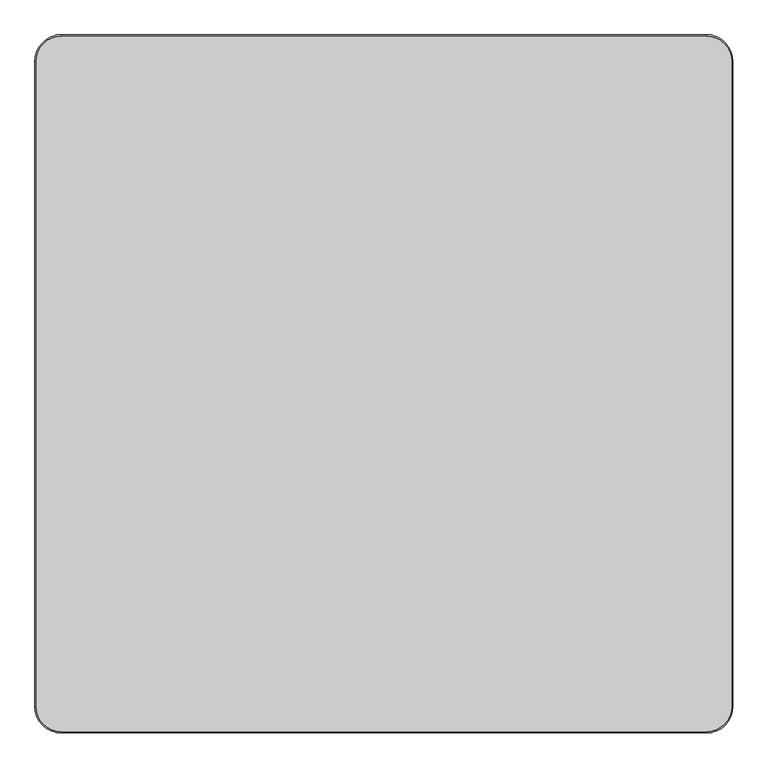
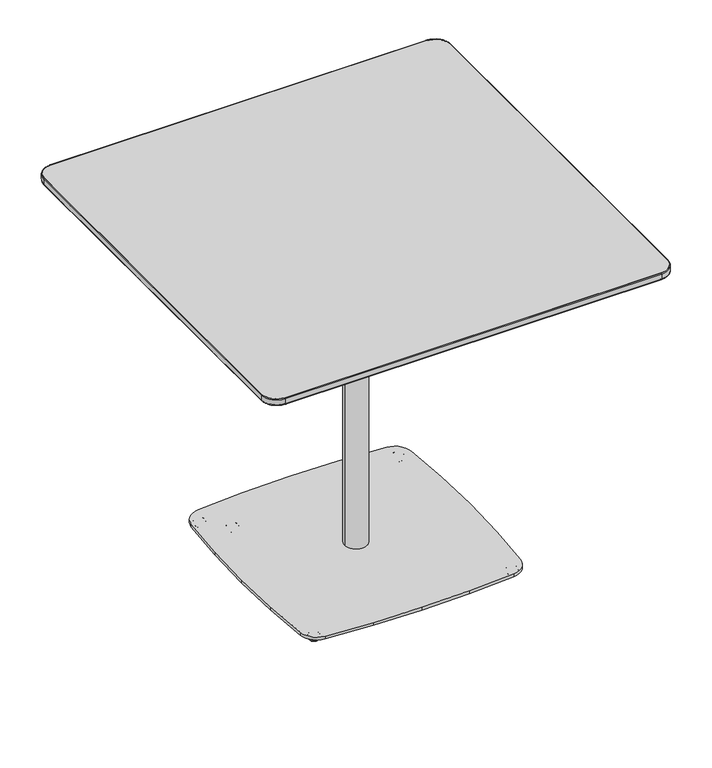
"""IFC4 building model written with IfcOpenShell, lengths in millimetres: furniture geometry, Coalesse_AM_Table_Occasional_Montara650Table_CafeHeight_Square : Counter Height - 42D x 42W."""

from ifc_helpers import new_model, si_unit, point, frame, frame_2d, origin, place, context, project, spatial, polyline, circle_curve, ellipse_curve, trimmed, segment, composite_curve, outline, extrude, source, transform, mapped, element, save
from ifc_brep_helpers import plane_surface, cylinder_surface, revolved_surface, spline_surface, advanced_brep


def furniture_18e4f8cc(model_context):
    return source(origin(), model_context, "Body", "SolidModel", [
        advanced_brep(
        [(252.3158533, 252.1363755, 0.0), (267.0011381, 266.8216603, 0.0), (259.6584957, 259.4790179, 0.0), (251.7693511, 251.5898733, 0.5718943), (267.5476403, 267.3681625, 0.5718943), (249.470252, 249.2907742, 11.2068005), (269.8467394, 269.6672616, 11.2068005), (249.8852728, 249.705795, 11.9999882), (269.4317186, 269.2522408, 11.9999882), (259.6584957, 259.4790179, 11.9999882)],
        [
            (0, 1, circle_curve(frame((259.6584957, 259.4790179, 0.0), z_axis=(0.0, 0.0, -1.0), x_axis=(0.7071067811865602, 0.7071067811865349, 0.0)), 10.3840645)),
            (1, 2),
            (2, 0),
            (1, 0, circle_curve(frame((259.6584957, 259.4790179, 0.0), z_axis=(0.0, 0.0, -1.0), x_axis=(0.7071067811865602, 0.7071067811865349, 0.0)), 10.3840645)),
            (3, 4, circle_curve(frame((259.6584957, 259.4790179, 0.5718943), z_axis=(0.0, 0.0, -1.0), x_axis=(0.7071067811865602, 0.7071067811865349, 0.0)), 11.1569353)),
            (4, 1, circle_curve(frame((267.0011381, 266.8216603, 0.8081846), z_axis=(-0.7071067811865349, 0.7071067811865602, 0.0), x_axis=(0.7071067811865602, 0.7071067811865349, 0.0)), 0.8081846)),
            (0, 3, circle_curve(frame((252.3158533, 252.1363755, 0.8081846), z_axis=(-0.7071067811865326, 0.7071067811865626, 0.0), x_axis=(-0.7071067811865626, -0.7071067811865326, 0.0)), 0.8081846)),
            (4, 3, circle_curve(frame((259.6584957, 259.4790179, 0.5718943), z_axis=(0.0, 0.0, -1.0), x_axis=(0.7071067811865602, 0.7071067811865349, 0.0)), 11.1569353)),
            (5, 6, circle_curve(frame((259.6584957, 259.4790179, 11.2068005), z_axis=(0.0, 0.0, -1.0), x_axis=(0.7071067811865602, 0.7071067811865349, 0.0)), 14.4083524)),
            (6, 4),
            (3, 5),
            (6, 5, circle_curve(frame((259.6584957, 259.4790179, 11.2068005), z_axis=(0.0, 0.0, -1.0), x_axis=(0.7071067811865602, 0.7071067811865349, 0.0)), 14.4083524)),
            (7, 8, circle_curve(frame((259.6584957, 259.4790179, 11.9999882), z_axis=(0.0, 0.0, -1.0), x_axis=(0.7071067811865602, 0.7071067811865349, 0.0)), 13.8214243)),
            (8, 6, circle_curve(frame((269.4317186, 269.2522408, 11.3862424), z_axis=(-0.7071067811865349, 0.7071067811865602, 0.0), x_axis=(0.7071067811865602, 0.7071067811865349, 0.0)), 0.6137458)),
            (5, 7, circle_curve(frame((249.8852728, 249.705795, 11.3862424), z_axis=(-0.7071067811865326, 0.7071067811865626, 0.0), x_axis=(-0.7071067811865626, -0.7071067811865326, 0.0)), 0.6137458)),
            (8, 7, circle_curve(frame((259.6584957, 259.4790179, 11.9999882), z_axis=(0.0, 0.0, -1.0), x_axis=(0.7071067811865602, 0.7071067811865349, 0.0)), 13.8214243)),
            (9, 8),
            (7, 9),
        ],
        [
            plane_surface(frame((259.6584957, 259.4790179, 0.0), z_axis=(0.0, 0.0, -1.0000000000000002), x_axis=(0.7071067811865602, 0.7071067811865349, 0.0))),
            revolved_surface(trimmed(ellipse_curve(frame((267.0011381, 266.8216603, 0.8081846), z_axis=(0.7071067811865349, -0.7071067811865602, 0.0), x_axis=(0.7071067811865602, 0.7071067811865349, 0.0)), 0.8081846, 0.8081846), [point((267.0011381, 266.8216603, 0.0))], [point((267.5476403, 267.3681625, 0.5718943))], True, "CARTESIAN"), (259.6584957, 259.4790179, 12.2086845), (0.0, 0.0, 1.0)),
            revolved_surface(polyline([(267.5476403, 267.3681625, 0.5718943), (269.8467394, 269.6672616, 11.2068005)]), (259.6584957, 259.4790179, 12.2086845), (0.0, 0.0, 1.0)),
            revolved_surface(trimmed(ellipse_curve(frame((269.4317186, 269.2522408, 11.3862424), z_axis=(0.7071067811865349, -0.7071067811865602, 0.0), x_axis=(0.7071067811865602, 0.7071067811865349, 0.0)), 0.6137458, 0.6137458), [point((269.8467394, 269.6672616, 11.2068005))], [point((269.4317186, 269.2522408, 11.9999882))], True, "CARTESIAN"), (259.6584957, 259.4790179, 12.2086845), (0.0, 0.0, 1.0)),
            plane_surface(frame((259.6584957, 259.4790179, 11.9999882), z_axis=(0.0, 0.0, 1.0000000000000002), x_axis=(0.7071067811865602, 0.7071067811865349, 0.0))),
        ],
        [
            (0, [[1, 2, 3]]),
            (0, [[4, -3, -2]]),
            (1, [[5, 6, -1, 7]]),
            (1, [[8, -7, -4, -6]]),
            (2, [[9, 10, -5, 11]]),
            (2, [[12, -11, -8, -10]]),
            (3, [[13, 14, -9, 15]]),
            (3, [[16, -15, -12, -14]]),
            (4, [[17, -13, 18]]),
            (4, [[-18, -16, -17]]),
        ],
    ),
        advanced_brep(
        [(259.8015382, -259.9111532, 0.0), (267.1441807, -267.2537956, 0.0), (252.4588958, -252.5685107, 0.0), (267.6906828, -267.8002977, 0.5718943), (251.9123937, -252.0220086, 0.5718943), (269.9897819, -270.0993968, 11.2068005), (249.6132946, -249.7229095, 11.2068005), (269.5747611, -269.684376, 11.9999882), (250.0283154, -250.1379303, 11.9999882), (259.8015382, -259.9111532, 11.9999882)],
        [
            (0, 1),
            (1, 2, circle_curve(frame((259.8015382, -259.9111532, 0.0), z_axis=(0.0, 0.0, -1.0), x_axis=(0.7071067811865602, -0.7071067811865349, 0.0)), 10.3840645)),
            (2, 0),
            (2, 1, circle_curve(frame((259.8015382, -259.9111532, 0.0), z_axis=(0.0, 0.0, -1.0), x_axis=(0.7071067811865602, -0.7071067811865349, 0.0)), 10.3840645)),
            (1, 3, circle_curve(frame((267.1441807, -267.2537956, 0.8081846), z_axis=(-0.7071067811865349, -0.7071067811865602, 0.0), x_axis=(0.7071067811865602, -0.7071067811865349, 0.0)), 0.8081846)),
            (3, 4, circle_curve(frame((259.8015382, -259.9111532, 0.5718943), z_axis=(0.0, 0.0, -1.0), x_axis=(0.7071067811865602, -0.7071067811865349, 0.0)), 11.1569353)),
            (4, 2, circle_curve(frame((252.4588958, -252.5685107, 0.8081846), z_axis=(-0.7071067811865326, -0.7071067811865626, 0.0), x_axis=(-0.7071067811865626, 0.7071067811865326, 0.0)), 0.8081846)),
            (4, 3, circle_curve(frame((259.8015382, -259.9111532, 0.5718943), z_axis=(0.0, 0.0, -1.0), x_axis=(0.7071067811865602, -0.7071067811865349, 0.0)), 11.1569353)),
            (3, 5),
            (5, 6, circle_curve(frame((259.8015382, -259.9111532, 11.2068005), z_axis=(0.0, 0.0, -1.0), x_axis=(0.7071067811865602, -0.7071067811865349, 0.0)), 14.4083524)),
            (6, 4),
            (6, 5, circle_curve(frame((259.8015382, -259.9111532, 11.2068005), z_axis=(0.0, 0.0, -1.0), x_axis=(0.7071067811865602, -0.7071067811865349, 0.0)), 14.4083524)),
            (5, 7, circle_curve(frame((269.5747611, -269.684376, 11.3862424), z_axis=(-0.7071067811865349, -0.7071067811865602, 0.0), x_axis=(0.7071067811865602, -0.7071067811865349, 0.0)), 0.6137458)),
            (7, 8, circle_curve(frame((259.8015382, -259.9111532, 11.9999882), z_axis=(0.0, 0.0, -1.0), x_axis=(0.7071067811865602, -0.7071067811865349, 0.0)), 13.8214243)),
            (8, 6, circle_curve(frame((250.0283154, -250.1379303, 11.3862424), z_axis=(-0.7071067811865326, -0.7071067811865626, 0.0), x_axis=(-0.7071067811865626, 0.7071067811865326, 0.0)), 0.6137458)),
            (8, 7, circle_curve(frame((259.8015382, -259.9111532, 11.9999882), z_axis=(0.0, 0.0, -1.0), x_axis=(0.7071067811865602, -0.7071067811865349, 0.0)), 13.8214243)),
            (7, 9),
            (9, 8),
        ],
        [
            plane_surface(frame((259.8015382, -259.9111532, 0.0), z_axis=(0.0, 0.0, -1.0000000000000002), x_axis=(0.7071067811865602, -0.7071067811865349, 0.0))),
            revolved_surface(trimmed(ellipse_curve(frame((267.1441807, -267.2537956, 0.8081846), z_axis=(0.7071067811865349, 0.7071067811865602, 0.0), x_axis=(0.7071067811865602, -0.7071067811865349, 0.0)), 0.8081846, 0.8081846), [point((267.6906828, -267.8002977, 0.5718943))], [point((267.1441807, -267.2537956, 0.0))], True, "CARTESIAN"), (259.8015382, -259.9111532, 12.2086845), (0.0, 0.0, -1.0)),
            revolved_surface(polyline([(269.9897819, -270.0993968, 11.2068005), (267.6906828, -267.8002977, 0.5718943)]), (259.8015382, -259.9111532, 12.2086845), (0.0, 0.0, -1.0)),
            revolved_surface(trimmed(ellipse_curve(frame((269.5747611, -269.684376, 11.3862424), z_axis=(0.7071067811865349, 0.7071067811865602, 0.0), x_axis=(0.7071067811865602, -0.7071067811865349, 0.0)), 0.6137458, 0.6137458), [point((269.5747611, -269.684376, 11.9999882))], [point((269.9897819, -270.0993968, 11.2068005))], True, "CARTESIAN"), (259.8015382, -259.9111532, 12.2086845), (0.0, 0.0, -1.0)),
            plane_surface(frame((259.8015382, -259.9111532, 11.9999882), z_axis=(0.0, 0.0, 1.0000000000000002), x_axis=(0.7071067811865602, -0.7071067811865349, 0.0))),
        ],
        [
            (0, [[1, 2, 3]]),
            (0, [[-3, 4, -1]]),
            (1, [[-2, 5, 6, 7]]),
            (1, [[-4, -7, 8, -5]]),
            (2, [[-6, 9, 10, 11]]),
            (2, [[-8, -11, 12, -9]]),
            (3, [[-10, 13, 14, 15]]),
            (3, [[-12, -15, 16, -13]]),
            (4, [[-14, 17, 18]]),
            (4, [[-16, -18, -17]]),
        ],
    ),
        extrude(outline(composite_curve([segment(trimmed(circle_curve(frame_2d((-243.9942116, 243.996709)), 44.45), [point((-288.3392595, 247.0494508))], [point((-247.0469534, 288.3417568))], False, "CARTESIAN"), True, "CONTINUOUS"), segment(polyline([(-247.0469534, 288.3417568), (-126.1187996, 296.6665291), (-0.0009163, 300.0012093), (126.116967, 296.6665291), (247.0474572, 288.341596)]), True, "CONTINUOUS"), segment(trimmed(circle_curve(frame_2d((243.9947155, 243.9965482)), 44.45), [point((247.0474572, 288.341596))], [point((288.3397633, 247.0492899))], False, "CARTESIAN"), True, "CONTINUOUS"), segment(polyline([(288.3397633, 247.0492899), (296.6646964, 126.1187996), (299.9993766, 0.0009163), (296.6646964, -126.116967), (288.3399178, -247.0452123)]), True, "CONTINUOUS"), segment(trimmed(circle_curve(frame_2d((243.99487, -243.9924705)), 44.45), [point((288.3399178, -247.0452123))], [point((247.0484272, -288.3374622))], False, "CARTESIAN"), True, "CONTINUOUS"), segment(polyline([(247.0484272, -288.3374622), (126.116967, -296.6646964), (-0.0009163, -299.9993766), (-126.1187996, -296.6646964), (-247.0479234, -288.3376231)]), True, "CONTINUOUS"), segment(trimmed(circle_curve(frame_2d((-243.9943662, -243.9926314)), 44.45), [point((-247.0479234, -288.3376231))], [point((-288.339414, -247.0453732))], False, "CARTESIAN"), True, "CONTINUOUS"), segment(polyline([(-288.339414, -247.0453732), (-296.6642037, -126.116967), (-299.9988839, 0.0009163), (-296.6642037, 126.1187996), (-288.3392595, 247.0494508)]), True, "CONTINUOUS")], self_intersect=False)), frame((0.0, 0.0, 11.9999882), z_axis=(0.0, 0.0, 1.0), x_axis=(1.0, 0.0, 0.0)), (0.0, 0.0, 1.0), 8.0000083),
        advanced_brep(
        [(-259.8122576, 259.6204684, 0.0), (-267.1549, 266.9631108, 0.0), (-252.4696151, 252.277826, 0.0), (-267.7014021, 267.509613, 0.5718943), (-251.923113, 251.7313238, 0.5718943), (-270.0005012, 269.8087121, 11.2068005), (-249.6240139, 249.4322247, 11.2068005), (-269.5854804, 269.3936913, 11.9999882), (-250.0390347, 249.8472455, 11.9999882), (-259.8122576, 259.6204684, 11.9999882)],
        [
            (0, 1),
            (1, 2, circle_curve(frame((-259.8122576, 259.6204684, 0.0), z_axis=(0.0, 0.0, -1.0), x_axis=(-0.7071067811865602, 0.7071067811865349, 0.0)), 10.3840645)),
            (2, 0),
            (2, 1, circle_curve(frame((-259.8122576, 259.6204684, 0.0), z_axis=(0.0, 0.0, -1.0), x_axis=(-0.7071067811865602, 0.7071067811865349, 0.0)), 10.3840645)),
            (1, 3, circle_curve(frame((-267.1549, 266.9631108, 0.8081846), z_axis=(0.7071067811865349, 0.7071067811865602, 0.0), x_axis=(-0.7071067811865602, 0.7071067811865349, 0.0)), 0.8081846)),
            (3, 4, circle_curve(frame((-259.8122576, 259.6204684, 0.5718943), z_axis=(0.0, 0.0, -1.0), x_axis=(-0.7071067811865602, 0.7071067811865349, 0.0)), 11.1569353)),
            (4, 2, circle_curve(frame((-252.4696151, 252.277826, 0.8081846), z_axis=(0.7071067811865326, 0.7071067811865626, 0.0), x_axis=(0.7071067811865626, -0.7071067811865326, 0.0)), 0.8081846)),
            (4, 3, circle_curve(frame((-259.8122576, 259.6204684, 0.5718943), z_axis=(0.0, 0.0, -1.0), x_axis=(-0.7071067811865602, 0.7071067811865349, 0.0)), 11.1569353)),
            (3, 5),
            (5, 6, circle_curve(frame((-259.8122576, 259.6204684, 11.2068005), z_axis=(0.0, 0.0, -1.0), x_axis=(-0.7071067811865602, 0.7071067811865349, 0.0)), 14.4083524)),
            (6, 4),
            (6, 5, circle_curve(frame((-259.8122576, 259.6204684, 11.2068005), z_axis=(0.0, 0.0, -1.0), x_axis=(-0.7071067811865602, 0.7071067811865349, 0.0)), 14.4083524)),
            (5, 7, circle_curve(frame((-269.5854804, 269.3936913, 11.3862424), z_axis=(0.7071067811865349, 0.7071067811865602, 0.0), x_axis=(-0.7071067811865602, 0.7071067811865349, 0.0)), 0.6137458)),
            (7, 8, circle_curve(frame((-259.8122576, 259.6204684, 11.9999882), z_axis=(0.0, 0.0, -1.0), x_axis=(-0.7071067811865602, 0.7071067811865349, 0.0)), 13.8214243)),
            (8, 6, circle_curve(frame((-250.0390347, 249.8472455, 11.3862424), z_axis=(0.7071067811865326, 0.7071067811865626, 0.0), x_axis=(0.7071067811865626, -0.7071067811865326, 0.0)), 0.6137458)),
            (8, 7, circle_curve(frame((-259.8122576, 259.6204684, 11.9999882), z_axis=(0.0, 0.0, -1.0), x_axis=(-0.7071067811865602, 0.7071067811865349, 0.0)), 13.8214243)),
            (7, 9),
            (9, 8),
        ],
        [
            plane_surface(frame((-259.8122576, 259.6204684, 0.0), z_axis=(0.0, 0.0, -1.0000000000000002), x_axis=(-0.7071067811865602, 0.7071067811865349, 0.0))),
            revolved_surface(trimmed(ellipse_curve(frame((-267.1549, 266.9631108, 0.8081846), z_axis=(-0.7071067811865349, -0.7071067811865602, 0.0), x_axis=(-0.7071067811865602, 0.7071067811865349, 0.0)), 0.8081846, 0.8081846), [point((-267.7014021, 267.509613, 0.5718943))], [point((-267.1549, 266.9631108, 0.0))], True, "CARTESIAN"), (-259.8122576, 259.6204684, 12.2086845), (0.0, 0.0, -1.0)),
            revolved_surface(polyline([(-270.0005012, 269.8087121, 11.2068005), (-267.7014021, 267.509613, 0.5718943)]), (-259.8122576, 259.6204684, 12.2086845), (0.0, 0.0, -1.0)),
            revolved_surface(trimmed(ellipse_curve(frame((-269.5854804, 269.3936913, 11.3862424), z_axis=(-0.7071067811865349, -0.7071067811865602, 0.0), x_axis=(-0.7071067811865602, 0.7071067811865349, 0.0)), 0.6137458, 0.6137458), [point((-269.5854804, 269.3936913, 11.9999882))], [point((-270.0005012, 269.8087121, 11.2068005))], True, "CARTESIAN"), (-259.8122576, 259.6204684, 12.2086845), (0.0, 0.0, -1.0)),
            plane_surface(frame((-259.8122576, 259.6204684, 11.9999882), z_axis=(0.0, 0.0, 1.0000000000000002), x_axis=(-0.7071067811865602, 0.7071067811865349, 0.0))),
        ],
        [
            (0, [[1, 2, 3]]),
            (0, [[-3, 4, -1]]),
            (1, [[-2, 5, 6, 7]]),
            (1, [[-4, -7, 8, -5]]),
            (2, [[-6, 9, 10, 11]]),
            (2, [[-8, -11, 12, -9]]),
            (3, [[-10, 13, 14, 15]]),
            (3, [[-12, -15, 16, -13]]),
            (4, [[-14, 17, 18]]),
            (4, [[-16, -18, -17]]),
        ],
    ),
        advanced_brep(
        [(-252.8175248, -252.4969322, 0.0), (-267.5028096, -267.182217, 0.0), (-260.1601672, -259.8395746, 0.0), (-252.2710226, -251.95043, 0.5718943), (-268.0493118, -267.7287192, 0.5718943), (-249.9719235, -249.6513309, 11.2068005), (-270.3484109, -270.0278183, 11.2068005), (-250.3869443, -250.0663517, 11.9999882), (-269.9333901, -269.6127975, 11.9999882), (-260.1601672, -259.8395746, 11.9999882)],
        [
            (0, 1, circle_curve(frame((-260.1601672, -259.8395746, 0.0), z_axis=(0.0, 0.0, -1.0), x_axis=(-0.7071067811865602, -0.7071067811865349, 0.0)), 10.3840645)),
            (1, 2),
            (2, 0),
            (1, 0, circle_curve(frame((-260.1601672, -259.8395746, 0.0), z_axis=(0.0, 0.0, -1.0), x_axis=(-0.7071067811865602, -0.7071067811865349, 0.0)), 10.3840645)),
            (3, 4, circle_curve(frame((-260.1601672, -259.8395746, 0.5718943), z_axis=(0.0, 0.0, -1.0), x_axis=(-0.7071067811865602, -0.7071067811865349, 0.0)), 11.1569353)),
            (4, 1, circle_curve(frame((-267.5028096, -267.182217, 0.8081846), z_axis=(0.7071067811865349, -0.7071067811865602, 0.0), x_axis=(-0.7071067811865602, -0.7071067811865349, 0.0)), 0.8081846)),
            (0, 3, circle_curve(frame((-252.8175248, -252.4969322, 0.8081846), z_axis=(0.7071067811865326, -0.7071067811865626, 0.0), x_axis=(0.7071067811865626, 0.7071067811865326, 0.0)), 0.8081846)),
            (4, 3, circle_curve(frame((-260.1601672, -259.8395746, 0.5718943), z_axis=(0.0, 0.0, -1.0), x_axis=(-0.7071067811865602, -0.7071067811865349, 0.0)), 11.1569353)),
            (5, 6, circle_curve(frame((-260.1601672, -259.8395746, 11.2068005), z_axis=(0.0, 0.0, -1.0), x_axis=(-0.7071067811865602, -0.7071067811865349, 0.0)), 14.4083524)),
            (6, 4),
            (3, 5),
            (6, 5, circle_curve(frame((-260.1601672, -259.8395746, 11.2068005), z_axis=(0.0, 0.0, -1.0), x_axis=(-0.7071067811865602, -0.7071067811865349, 0.0)), 14.4083524)),
            (7, 8, circle_curve(frame((-260.1601672, -259.8395746, 11.9999882), z_axis=(0.0, 0.0, -1.0), x_axis=(-0.7071067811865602, -0.7071067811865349, 0.0)), 13.8214243)),
            (8, 6, circle_curve(frame((-269.9333901, -269.6127975, 11.3862424), z_axis=(0.7071067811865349, -0.7071067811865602, 0.0), x_axis=(-0.7071067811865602, -0.7071067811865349, 0.0)), 0.6137458)),
            (5, 7, circle_curve(frame((-250.3869443, -250.0663517, 11.3862424), z_axis=(0.7071067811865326, -0.7071067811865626, 0.0), x_axis=(0.7071067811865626, 0.7071067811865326, 0.0)), 0.6137458)),
            (8, 7, circle_curve(frame((-260.1601672, -259.8395746, 11.9999882), z_axis=(0.0, 0.0, -1.0), x_axis=(-0.7071067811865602, -0.7071067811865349, 0.0)), 13.8214243)),
            (9, 8),
            (7, 9),
        ],
        [
            plane_surface(frame((-260.1601672, -259.8395746, 0.0), z_axis=(0.0, 0.0, -1.0000000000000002), x_axis=(-0.7071067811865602, -0.7071067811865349, 0.0))),
            revolved_surface(trimmed(ellipse_curve(frame((-267.5028096, -267.182217, 0.8081846), z_axis=(-0.7071067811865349, 0.7071067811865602, 0.0), x_axis=(-0.7071067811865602, -0.7071067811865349, 0.0)), 0.8081846, 0.8081846), [point((-267.5028096, -267.182217, 0.0))], [point((-268.0493118, -267.7287192, 0.5718943))], True, "CARTESIAN"), (-260.1601672, -259.8395746, 12.2086845), (0.0, 0.0, 1.0)),
            revolved_surface(polyline([(-268.0493118, -267.7287192, 0.5718943), (-270.3484109, -270.0278183, 11.2068005)]), (-260.1601672, -259.8395746, 12.2086845), (0.0, 0.0, 1.0)),
            revolved_surface(trimmed(ellipse_curve(frame((-269.9333901, -269.6127975, 11.3862424), z_axis=(-0.7071067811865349, 0.7071067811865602, 0.0), x_axis=(-0.7071067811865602, -0.7071067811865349, 0.0)), 0.6137458, 0.6137458), [point((-270.3484109, -270.0278183, 11.2068005))], [point((-269.9333901, -269.6127975, 11.9999882))], True, "CARTESIAN"), (-260.1601672, -259.8395746, 12.2086845), (0.0, 0.0, 1.0)),
            plane_surface(frame((-260.1601672, -259.8395746, 11.9999882), z_axis=(0.0, 0.0, 1.0000000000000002), x_axis=(-0.7071067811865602, -0.7071067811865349, 0.0))),
        ],
        [
            (0, [[1, 2, 3]]),
            (0, [[4, -3, -2]]),
            (1, [[5, 6, -1, 7]]),
            (1, [[8, -7, -4, -6]]),
            (2, [[9, 10, -5, 11]]),
            (2, [[12, -11, -8, -10]]),
            (3, [[13, 14, -9, 15]]),
            (3, [[16, -15, -12, -14]]),
            (4, [[17, -13, 18]]),
            (4, [[-18, -16, -17]]),
        ],
    ),
        advanced_brep(
        [(-204.8873489, 205.5044028, 0.0), (-212.2299913, 212.8470453, 0.0), (-197.5447065, 198.1617604, 0.0), (-212.7764935, 213.3935474, 0.5718943), (-196.9982043, 197.6152583, 0.5718943), (-215.0755926, 215.6926465, 11.2068005), (-194.6991052, 195.3161592, 11.2068005), (-214.6605718, 215.2776257, 11.9999882), (-195.114126, 195.73118, 11.9999882), (-204.8873489, 205.5044028, 11.9999882)],
        [
            (0, 1),
            (1, 2, circle_curve(frame((-204.8873489, 205.5044028, 0.0), z_axis=(0.0, 0.0, -1.0), x_axis=(-0.7071067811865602, 0.7071067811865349, 0.0)), 10.3840645)),
            (2, 0),
            (2, 1, circle_curve(frame((-204.8873489, 205.5044028, 0.0), z_axis=(0.0, 0.0, -1.0), x_axis=(-0.7071067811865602, 0.7071067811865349, 0.0)), 10.3840645)),
            (1, 3, circle_curve(frame((-212.2299913, 212.8470453, 0.8081846), z_axis=(0.7071067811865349, 0.7071067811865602, 0.0), x_axis=(-0.7071067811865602, 0.7071067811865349, 0.0)), 0.8081846)),
            (3, 4, circle_curve(frame((-204.8873489, 205.5044028, 0.5718943), z_axis=(0.0, 0.0, -1.0), x_axis=(-0.7071067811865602, 0.7071067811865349, 0.0)), 11.1569353)),
            (4, 2, circle_curve(frame((-197.5447065, 198.1617604, 0.8081846), z_axis=(0.7071067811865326, 0.7071067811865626, 0.0), x_axis=(0.7071067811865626, -0.7071067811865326, 0.0)), 0.8081846)),
            (4, 3, circle_curve(frame((-204.8873489, 205.5044028, 0.5718943), z_axis=(0.0, 0.0, -1.0), x_axis=(-0.7071067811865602, 0.7071067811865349, 0.0)), 11.1569353)),
            (3, 5),
            (5, 6, circle_curve(frame((-204.8873489, 205.5044028, 11.2068005), z_axis=(0.0, 0.0, -1.0), x_axis=(-0.7071067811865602, 0.7071067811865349, 0.0)), 14.4083524)),
            (6, 4),
            (6, 5, circle_curve(frame((-204.8873489, 205.5044028, 11.2068005), z_axis=(0.0, 0.0, -1.0), x_axis=(-0.7071067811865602, 0.7071067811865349, 0.0)), 14.4083524)),
            (5, 7, circle_curve(frame((-214.6605718, 215.2776257, 11.3862424), z_axis=(0.7071067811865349, 0.7071067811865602, 0.0), x_axis=(-0.7071067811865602, 0.7071067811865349, 0.0)), 0.6137458)),
            (7, 8, circle_curve(frame((-204.8873489, 205.5044028, 11.9999882), z_axis=(0.0, 0.0, -1.0), x_axis=(-0.7071067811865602, 0.7071067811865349, 0.0)), 13.8214243)),
            (8, 6, circle_curve(frame((-195.114126, 195.73118, 11.3862424), z_axis=(0.7071067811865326, 0.7071067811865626, 0.0), x_axis=(0.7071067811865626, -0.7071067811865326, 0.0)), 0.6137458)),
            (8, 7, circle_curve(frame((-204.8873489, 205.5044028, 11.9999882), z_axis=(0.0, 0.0, -1.0), x_axis=(-0.7071067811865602, 0.7071067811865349, 0.0)), 13.8214243)),
            (7, 9),
            (9, 8),
        ],
        [
            plane_surface(frame((-204.8873489, 205.5044028, 0.0), z_axis=(0.0, 0.0, -1.0000000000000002), x_axis=(-0.7071067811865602, 0.7071067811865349, 0.0))),
            revolved_surface(trimmed(ellipse_curve(frame((-212.2299913, 212.8470453, 0.8081846), z_axis=(-0.7071067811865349, -0.7071067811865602, 0.0), x_axis=(-0.7071067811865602, 0.7071067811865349, 0.0)), 0.8081846, 0.8081846), [point((-212.7764935, 213.3935474, 0.5718943))], [point((-212.2299913, 212.8470453, 0.0))], True, "CARTESIAN"), (-204.8873489, 205.5044028, 12.2086845), (0.0, 0.0, -1.0)),
            revolved_surface(polyline([(-215.0755926, 215.6926465, 11.2068005), (-212.7764935, 213.3935474, 0.5718943)]), (-204.8873489, 205.5044028, 12.2086845), (0.0, 0.0, -1.0)),
            revolved_surface(trimmed(ellipse_curve(frame((-214.6605718, 215.2776257, 11.3862424), z_axis=(-0.7071067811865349, -0.7071067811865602, 0.0), x_axis=(-0.7071067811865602, 0.7071067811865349, 0.0)), 0.6137458, 0.6137458), [point((-214.6605718, 215.2776257, 11.9999882))], [point((-215.0755926, 215.6926465, 11.2068005))], True, "CARTESIAN"), (-204.8873489, 205.5044028, 12.2086845), (0.0, 0.0, -1.0)),
            plane_surface(frame((-204.8873489, 205.5044028, 11.9999882), z_axis=(0.0, 0.0, 1.0000000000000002), x_axis=(-0.7071067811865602, 0.7071067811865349, 0.0))),
        ],
        [
            (0, [[1, 2, 3]]),
            (0, [[-3, 4, -1]]),
            (1, [[-2, 5, 6, 7]]),
            (1, [[-4, -7, 8, -5]]),
            (2, [[-6, 9, 10, 11]]),
            (2, [[-8, -11, 12, -9]]),
            (3, [[-10, 13, 14, 15]]),
            (3, [[-12, -15, 16, -13]]),
            (4, [[-14, 17, 18]]),
            (4, [[-16, -18, -17]]),
        ],
    ),
        advanced_brep(
        [(468.4626362, 468.4635082, 884.430027), (468.4626362, -468.4635082, 884.430027), (-468.4626362, -468.4635082, 884.430027), (-468.4626362, 468.4635082, 884.430027), (493.188625, 531.368, 896.695891), (-493.188625, 531.368, 896.695891), (-531.288625, 493.268, 896.695891), (-531.288625, -493.268, 896.695891), (-493.188625, -531.368, 896.695891), (493.188625, -531.368, 896.695891), (531.288625, -493.268, 896.695891), (531.288625, 493.268, 896.695891)],
        [
            (0, 1),
            (1, 2),
            (2, 3),
            (3, 0),
            (4, 5),
            (5, 6, circle_curve(frame((-493.188625, 493.268, 896.695891), z_axis=(0.0, 0.0, 1.0), x_axis=(1.0, 0.0, 0.0)), 38.1)),
            (6, 7),
            (7, 8, circle_curve(frame((-493.188625, -493.268, 896.695891), z_axis=(0.0, 0.0, 1.0), x_axis=(1.0, 0.0, 0.0)), 38.1)),
            (8, 9),
            (9, 10, circle_curve(frame((493.188625, -493.268, 896.695891), z_axis=(0.0, 0.0, 1.0), x_axis=(1.0, 0.0, 0.0)), 38.1)),
            (10, 11),
            (11, 4, circle_curve(frame((493.188625, 493.268, 896.695891), z_axis=(0.0, 0.0, 1.0), x_axis=(1.0, 0.0, 0.0)), 38.1)),
            (11, 0),
            (0, 4),
            (10, 1),
            (9, 1),
            (8, 2),
            (7, 2),
            (6, 3),
            (5, 3),
        ],
        [
            plane_surface(frame((0.0, 0.0, 884.430027), z_axis=(0.0, 0.0, -1.0), x_axis=(-1.0, 0.0, 0.0))),
            plane_surface(frame((0.0, 0.0, 896.695891), z_axis=(0.0, 0.0, 1.0), x_axis=(-1.0, 0.0, 0.0))),
            spline_surface(2, 1, [[(493.188625, 531.368, 896.695891), (468.4626362, 468.4635082, 884.430027)], [(531.2886250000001, 531.3680000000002, 896.695891), (468.4626362, 468.4635082, 884.430027)], [(531.288625, 493.268, 896.695891), (468.4626362, 468.4635082, 884.430027)]], [3, 3], [2, 2], [0.0, 1.0], [0.0, 1.0], weights=[[1.0, 1.0], [0.707106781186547, 0.707106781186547], [1.0, 1.0]]),
            plane_surface(frame((531.288625, 0.0, 896.695891), z_axis=(0.1916177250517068, 0.0, -0.9814696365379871), x_axis=(0.0, -1.0, 0.0))),
            spline_surface(2, 1, [[(531.288625, -493.268, 896.695891), (468.4626362, -468.4635082, 884.430027)], [(531.2886249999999, -531.3679999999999, 896.695891), (468.4626362, -468.4635082, 884.430027)], [(493.188625, -531.368, 896.695891), (468.4626362, -468.4635082, 884.430027)]], [3, 3], [2, 2], [0.0, 1.0], [0.0, 1.0], weights=[[1.0, 1.0], [0.7071067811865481, 0.7071067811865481], [1.0, 1.0]]),
            plane_surface(frame((0.0, -531.368, 896.695891), z_axis=(0.0, -0.19138735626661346, -0.9815145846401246), x_axis=(-1.0, 0.0, 0.0))),
            spline_surface(2, 1, [[(-493.188625, -531.368, 896.695891), (-468.4626362, -468.4635082, 884.430027)], [(-531.2886250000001, -531.3680000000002, 896.695891), (-468.4626362, -468.4635082, 884.430027)], [(-531.288625, -493.268, 896.695891), (-468.4626362, -468.4635082, 884.430027)]], [3, 3], [2, 2], [0.0, 1.0], [0.0, 1.0], weights=[[1.0, 1.0], [0.707106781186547, 0.707106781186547], [1.0, 1.0]]),
            plane_surface(frame((-531.288625, 0.0, 896.695891), z_axis=(-0.19161772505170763, 0.0, -0.981469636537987), x_axis=(0.0, 1.0, 0.0))),
            spline_surface(2, 1, [[(-531.288625, 493.268, 896.695891), (-468.4626362, 468.4635082, 884.430027)], [(-531.2886249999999, 531.3679999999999, 896.695891), (-468.4626362, 468.4635082, 884.430027)], [(-493.188625, 531.368, 896.695891), (-468.4626362, 468.4635082, 884.430027)]], [3, 3], [2, 2], [0.0, 1.0], [0.0, 1.0], weights=[[1.0, 1.0], [0.7071067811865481, 0.7071067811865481], [1.0, 1.0]]),
            plane_surface(frame((0.0, 531.368, 896.695891), z_axis=(0.0, 0.19138735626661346, -0.9815145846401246), x_axis=(1.0, 0.0, 0.0))),
        ],
        [
            (0, [[1, 2, 3, 4]]),
            (1, [[5, 6, 7, 8, 9, 10, 11, 12]]),
            (2, [[-12, 13, 14]]),
            (3, [[-11, 15, -1, -13]]),
            (4, [[-10, 16, -15]]),
            (5, [[-9, 17, -2, -16]]),
            (6, [[-8, 18, -17]]),
            (7, [[-7, 19, -3, -18]]),
            (8, [[-6, 20, -19]]),
            (9, [[-5, -14, -4, -20]]),
        ],
    ),
        extrude(outline(composite_curve([segment(trimmed(circle_curve(frame_2d((493.188625, 493.268)), 38.1), [point((493.188625, 531.368))], [point((531.288625, 493.268))], False, "CARTESIAN"), True, "CONTINUOUS"), segment(polyline([(531.288625, 493.268), (531.288625, -493.268)]), True, "CONTINUOUS"), segment(trimmed(circle_curve(frame_2d((493.188625, -493.268)), 38.1), [point((531.288625, -493.268))], [point((493.188625, -531.368))], False, "CARTESIAN"), True, "CONTINUOUS"), segment(polyline([(493.188625, -531.368), (-493.188625, -531.368)]), True, "CONTINUOUS"), segment(trimmed(circle_curve(frame_2d((-493.188625, -493.268)), 38.1), [point((-493.188625, -531.368))], [point((-531.288625, -493.268))], False, "CARTESIAN"), True, "CONTINUOUS"), segment(polyline([(-531.288625, -493.268), (-531.288625, 493.268)]), True, "CONTINUOUS"), segment(trimmed(circle_curve(frame_2d((-493.188625, 493.268)), 38.1), [point((-531.288625, 493.268))], [point((-493.188625, 531.368))], False, "CARTESIAN"), True, "CONTINUOUS"), segment(polyline([(-493.188625, 531.368), (493.188625, 531.368)]), True, "CONTINUOUS")], self_intersect=False)), frame((0.0, 0.0, 896.695891), z_axis=(0.0, 0.0, 1.0), x_axis=(1.0, 0.0, 0.0)), (0.0, 0.0, 1.0), 17.704109),
        advanced_brep(
        [(-533.3644915, 493.268, 898.6278467), (-493.188625, 533.4438665, 898.6278467), (-493.188625, 531.368, 896.695891), (-531.288625, 493.268, 896.695891), (-533.3644915, 493.268, 912.3999283), (-493.188625, 533.4438665, 912.3999283), (-531.288625, 493.268, 914.4), (-493.188625, 531.368, 914.4), (-531.288625, -493.268, 896.695891), (-533.3644915, -493.268, 898.6278467), (-533.3644915, -493.268, 912.3999283), (-531.288625, -493.268, 914.4), (-493.188625, -533.4438665, 898.6278467), (-493.188625, -531.368, 896.695891), (-493.188625, -533.4438665, 912.3999283), (-493.188625, -531.368, 914.4), (493.188625, -531.368, 896.695891), (493.188625, -533.4438665, 898.6278467), (493.188625, -533.4438665, 912.3999283), (493.188625, -531.368, 914.4), (533.3644915, -493.268, 898.6278467), (531.288625, -493.268, 896.695891), (533.3644915, -493.268, 912.3999283), (531.288625, -493.268, 914.4), (531.288625, 493.268, 896.695891), (533.3644915, 493.268, 898.6278467), (533.3644915, 493.268, 912.3999283), (531.288625, 493.268, 914.4), (493.188625, 533.4438665, 898.6278467), (493.188625, 531.368, 896.695891), (493.188625, 533.4438665, 912.3999283), (493.188625, 531.368, 914.4)],
        [
            (0, 1, circle_curve(frame((-493.188625, 493.268, 898.6278467), z_axis=(0.0, 0.0, -1.0), x_axis=(0.0, 1.0, 0.0)), 40.1758665)),
            (1, 2, circle_curve(frame((-493.188625, 531.5069224, 898.6278467), z_axis=(-1.0, 0.0, 0.0), x_axis=(0.0, -1.0, 0.0)), 1.9369441)),
            (2, 3, circle_curve(frame((-493.188625, 493.268, 896.695891), z_axis=(0.0, 0.0, 1.0), x_axis=(0.0, 1.0, 0.0)), 38.1)),
            (3, 0, circle_curve(frame((-531.4275474, 493.268, 898.6278467), z_axis=(0.0, 1.0, 0.0), x_axis=(1.0, 0.0, 0.0)), 1.9369441)),
            (4, 5, circle_curve(frame((-493.188625, 493.268, 912.3999283), z_axis=(0.0, 0.0, -1.0), x_axis=(0.0, 1.0, 0.0)), 40.1758665)),
            (5, 1),
            (0, 4),
            (6, 7, circle_curve(frame((-493.188625, 493.268, 914.4), z_axis=(0.0, 0.0, -1.0), x_axis=(0.0, 1.0, 0.0)), 38.1)),
            (7, 5, circle_curve(frame((-493.188625, 531.4424111, 912.3999283), z_axis=(-1.0, 0.0, 0.0), x_axis=(0.0, -1.0, 0.0)), 2.0014554)),
            (4, 6, circle_curve(frame((-531.3630361, 493.268, 912.3999283), z_axis=(0.0, 1.0, 0.0), x_axis=(1.0, 0.0, 0.0)), 2.0014554)),
            (2, 7),
            (6, 3),
            (3, 8),
            (8, 9, circle_curve(frame((-531.4275474, -493.268, 898.6278467), z_axis=(0.0, 1.0, 0.0), x_axis=(1.0, 0.0, 0.0)), 1.9369441)),
            (9, 0),
            (9, 10),
            (10, 4),
            (10, 11, circle_curve(frame((-531.3630361, -493.268, 912.3999283), z_axis=(0.0, 1.0, 0.0), x_axis=(1.0, 0.0, 0.0)), 2.0014554)),
            (11, 6),
            (11, 8),
            (12, 9, circle_curve(frame((-493.188625, -493.268, 898.6278467), z_axis=(0.0, 0.0, -1.0), x_axis=(-1.0, 0.0, 0.0)), 40.1758665)),
            (8, 13, circle_curve(frame((-493.188625, -493.268, 896.695891), z_axis=(0.0, 0.0, 1.0), x_axis=(-1.0, 0.0, 0.0)), 38.1)),
            (13, 12, circle_curve(frame((-493.188625, -531.5069224, 898.6278467), z_axis=(-1.0, 0.0, 0.0), x_axis=(0.0, 1.0, 0.0)), 1.9369441)),
            (14, 10, circle_curve(frame((-493.188625, -493.268, 912.3999283), z_axis=(0.0, 0.0, -1.0), x_axis=(-1.0, 0.0, 0.0)), 40.1758665)),
            (12, 14),
            (15, 11, circle_curve(frame((-493.188625, -493.268, 914.4), z_axis=(0.0, 0.0, -1.0), x_axis=(-1.0, 0.0, 0.0)), 38.1)),
            (14, 15, circle_curve(frame((-493.188625, -531.4424111, 912.3999283), z_axis=(-1.0, 0.0, 0.0), x_axis=(0.0, 1.0, 0.0)), 2.0014554)),
            (15, 13),
            (13, 16),
            (16, 17, circle_curve(frame((493.188625, -531.5069224, 898.6278467), z_axis=(-1.0, 0.0, 0.0), x_axis=(0.0, 1.0, 0.0)), 1.9369441)),
            (17, 12),
            (17, 18),
            (18, 14),
            (18, 19, circle_curve(frame((493.188625, -531.4424111, 912.3999283), z_axis=(-1.0, 0.0, 0.0), x_axis=(0.0, 1.0, 0.0)), 2.0014554)),
            (19, 15),
            (19, 16),
            (20, 17, circle_curve(frame((493.188625, -493.268, 898.6278467), z_axis=(0.0, 0.0, -1.0), x_axis=(0.0, -1.0, 0.0)), 40.1758665)),
            (16, 21, circle_curve(frame((493.188625, -493.268, 896.695891), z_axis=(0.0, 0.0, 1.0), x_axis=(0.0, -1.0, 0.0)), 38.1)),
            (21, 20, circle_curve(frame((531.4275474, -493.268, 898.6278467), z_axis=(0.0, -1.0, 0.0), x_axis=(-1.0, 0.0, 0.0)), 1.9369441)),
            (22, 18, circle_curve(frame((493.188625, -493.268, 912.3999283), z_axis=(0.0, 0.0, -1.0), x_axis=(0.0, -1.0, 0.0)), 40.1758665)),
            (20, 22),
            (23, 19, circle_curve(frame((493.188625, -493.268, 914.4), z_axis=(0.0, 0.0, -1.0), x_axis=(0.0, -1.0, 0.0)), 38.1)),
            (22, 23, circle_curve(frame((531.3630361, -493.268, 912.3999283), z_axis=(0.0, -1.0, 0.0), x_axis=(-1.0, 0.0, 0.0)), 2.0014554)),
            (23, 21),
            (21, 24),
            (24, 25, circle_curve(frame((531.4275474, 493.268, 898.6278467), z_axis=(0.0, -1.0, 0.0), x_axis=(-1.0, 0.0, 0.0)), 1.9369441)),
            (25, 20),
            (25, 26),
            (26, 22),
            (26, 27, circle_curve(frame((531.3630361, 493.268, 912.3999283), z_axis=(0.0, -1.0, 0.0), x_axis=(-1.0, 0.0, 0.0)), 2.0014554)),
            (27, 23),
            (27, 24),
            (28, 25, circle_curve(frame((493.188625, 493.268, 898.6278467), z_axis=(0.0, 0.0, -1.0), x_axis=(1.0, 0.0, 0.0)), 40.1758665)),
            (24, 29, circle_curve(frame((493.188625, 493.268, 896.695891), z_axis=(0.0, 0.0, 1.0), x_axis=(1.0, 0.0, 0.0)), 38.1)),
            (29, 28, circle_curve(frame((493.188625, 531.5069224, 898.6278467), z_axis=(1.0, 0.0, 0.0), x_axis=(0.0, -1.0, 0.0)), 1.9369441)),
            (30, 26, circle_curve(frame((493.188625, 493.268, 912.3999283), z_axis=(0.0, 0.0, -1.0), x_axis=(1.0, 0.0, 0.0)), 40.1758665)),
            (28, 30),
            (31, 27, circle_curve(frame((493.188625, 493.268, 914.4), z_axis=(0.0, 0.0, -1.0), x_axis=(1.0, 0.0, 0.0)), 38.1)),
            (30, 31, circle_curve(frame((493.188625, 531.4424111, 912.3999283), z_axis=(1.0, 0.0, 0.0), x_axis=(0.0, -1.0, 0.0)), 2.0014554)),
            (31, 29),
            (29, 2),
            (1, 28),
            (5, 30),
            (7, 31),
        ],
        [
            revolved_surface(trimmed(ellipse_curve(frame((-493.188625, 531.5069224, 898.6278467), z_axis=(1.0, 0.0, 0.0), x_axis=(0.0, -1.0, 0.0)), 1.9369441, 1.9369441), [point((-493.188625, 531.368, 896.695891))], [point((-493.188625, 533.4438665, 898.6278467))], True, "CARTESIAN"), (-493.188625, 493.268, 0.0), (0.0, 0.0, 1.0)),
            cylinder_surface(frame((-493.188625, 493.268, 0.0), z_axis=(0.0, 0.0, 1.0), x_axis=(0.0, 1.0, 0.0)), 40.1758665),
            revolved_surface(trimmed(ellipse_curve(frame((-493.188625, 531.4424111, 912.3999283), z_axis=(1.0, 0.0, 0.0), x_axis=(0.0, -1.0, 0.0)), 2.0014554, 2.0014554), [point((-493.188625, 533.4438665, 912.3999283))], [point((-493.188625, 531.368, 914.4))], True, "CARTESIAN"), (-493.188625, 493.268, 0.0), (0.0, 0.0, 1.0)),
            revolved_surface(polyline([(-493.188625, 531.3679999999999, 914.4), (-493.188625, 531.3679999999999, 896.695891)]), (-493.188625, 493.268, 0.0), (0.0, 0.0, 1.0)),
            cylinder_surface(frame((-531.4275474, 493.268, 898.6278467), z_axis=(0.0, 1.0, 0.0), x_axis=(1.0, 0.0, 0.0)), 1.9369441),
            plane_surface(frame((-533.3644915, 493.268, 898.6278467), z_axis=(-1.0, 0.0, 0.0), x_axis=(0.0, -1.0, 0.0))),
            cylinder_surface(frame((-531.3630361, 493.268, 912.3999283), z_axis=(0.0, 1.0, 0.0), x_axis=(1.0, 0.0, 0.0)), 2.0014554),
            plane_surface(frame((-531.288625, 493.268, 914.4), z_axis=(1.0, 0.0, 0.0), x_axis=(0.0, -1.0, 0.0))),
            revolved_surface(trimmed(ellipse_curve(frame((-531.4275474, -493.268, 898.6278467), z_axis=(0.0, 1.0, 0.0), x_axis=(1.0, 0.0, 0.0)), 1.9369441, 1.9369441), [point((-531.288625, -493.268, 896.695891))], [point((-533.3644915, -493.268, 898.6278467))], True, "CARTESIAN"), (-493.188625, -493.268, 0.0), (0.0, 0.0, 1.0)),
            cylinder_surface(frame((-493.188625, -493.268, 0.0), z_axis=(0.0, 0.0, 1.0), x_axis=(-1.0, 0.0, 0.0)), 40.1758665),
            revolved_surface(trimmed(ellipse_curve(frame((-531.3630361, -493.268, 912.3999283), z_axis=(0.0, 1.0, 0.0), x_axis=(1.0, 0.0, 0.0)), 2.0014554, 2.0014554), [point((-533.3644915, -493.268, 912.3999283))], [point((-531.288625, -493.268, 914.4))], True, "CARTESIAN"), (-493.188625, -493.268, 0.0), (0.0, 0.0, 1.0)),
            revolved_surface(polyline([(-531.288625, -493.268, 914.4), (-531.288625, -493.268, 896.695891)]), (-493.188625, -493.268, 0.0), (0.0, 0.0, 1.0)),
            cylinder_surface(frame((-493.188625, -531.5069224, 898.6278467), z_axis=(-1.0, 0.0, 0.0), x_axis=(0.0, 1.0, 0.0)), 1.9369441),
            plane_surface(frame((-493.188625, -533.4438665, 898.6278467), z_axis=(0.0, -1.0, 0.0), x_axis=(1.0, 0.0, 0.0))),
            cylinder_surface(frame((-493.188625, -531.4424111, 912.3999283), z_axis=(-1.0, 0.0, 0.0), x_axis=(0.0, 1.0, 0.0)), 2.0014554),
            plane_surface(frame((-493.188625, -531.368, 914.4), z_axis=(0.0, 1.0, 0.0), x_axis=(1.0, 0.0, 0.0))),
            revolved_surface(trimmed(ellipse_curve(frame((493.188625, -531.5069224, 898.6278467), z_axis=(-1.0, 0.0, 0.0), x_axis=(0.0, 1.0, 0.0)), 1.9369441, 1.9369441), [point((493.188625, -531.368, 896.695891))], [point((493.188625, -533.4438665, 898.6278467))], True, "CARTESIAN"), (493.188625, -493.268, 0.0), (0.0, 0.0, 1.0)),
            cylinder_surface(frame((493.188625, -493.268, 0.0), z_axis=(0.0, 0.0, 1.0), x_axis=(0.0, -1.0, 0.0)), 40.1758665),
            revolved_surface(trimmed(ellipse_curve(frame((493.188625, -531.4424111, 912.3999283), z_axis=(-1.0, 0.0, 0.0), x_axis=(0.0, 1.0, 0.0)), 2.0014554, 2.0014554), [point((493.188625, -533.4438665, 912.3999283))], [point((493.188625, -531.368, 914.4))], True, "CARTESIAN"), (493.188625, -493.268, 0.0), (0.0, 0.0, 1.0)),
            revolved_surface(polyline([(493.188625, -531.3679999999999, 914.4), (493.188625, -531.3679999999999, 896.695891)]), (493.188625, -493.268, 0.0), (0.0, 0.0, 1.0)),
            cylinder_surface(frame((531.4275474, -493.268, 898.6278467), z_axis=(0.0, -1.0, 0.0), x_axis=(-1.0, 0.0, 0.0)), 1.9369441),
            plane_surface(frame((533.3644915, -493.268, 898.6278467), z_axis=(1.0, 0.0, 0.0), x_axis=(0.0, 1.0, 0.0))),
            cylinder_surface(frame((531.3630361, -493.268, 912.3999283), z_axis=(0.0, -1.0, 0.0), x_axis=(-1.0, 0.0, 0.0)), 2.0014554),
            plane_surface(frame((531.288625, -493.268, 914.4), z_axis=(-1.0, 0.0, 0.0), x_axis=(0.0, 1.0, 0.0))),
            revolved_surface(trimmed(ellipse_curve(frame((531.4275474, 493.268, 898.6278467), z_axis=(0.0, -1.0, 0.0), x_axis=(-1.0, 0.0, 0.0)), 1.9369441, 1.9369441), [point((531.288625, 493.268, 896.695891))], [point((533.3644915, 493.268, 898.6278467))], True, "CARTESIAN"), (493.188625, 493.268, 0.0), (0.0, 0.0, 1.0)),
            cylinder_surface(frame((493.188625, 493.268, 0.0), z_axis=(0.0, 0.0, 1.0), x_axis=(1.0, 0.0, 0.0)), 40.1758665),
            revolved_surface(trimmed(ellipse_curve(frame((531.3630361, 493.268, 912.3999283), z_axis=(0.0, -1.0, 0.0), x_axis=(-1.0, 0.0, 0.0)), 2.0014554, 2.0014554), [point((533.3644915, 493.268, 912.3999283))], [point((531.288625, 493.268, 914.4))], True, "CARTESIAN"), (493.188625, 493.268, 0.0), (0.0, 0.0, 1.0)),
            revolved_surface(polyline([(531.288625, 493.268, 914.4), (531.288625, 493.268, 896.695891)]), (493.188625, 493.268, 0.0), (0.0, 0.0, 1.0)),
            cylinder_surface(frame((493.188625, 531.5069224, 898.6278467), z_axis=(1.0, 0.0, 0.0), x_axis=(0.0, -1.0, 0.0)), 1.9369441),
            plane_surface(frame((493.188625, 533.4438665, 898.6278467), z_axis=(0.0, 1.0, 0.0), x_axis=(-1.0, 0.0, 0.0))),
            cylinder_surface(frame((493.188625, 531.4424111, 912.3999283), z_axis=(1.0, 0.0, 0.0), x_axis=(0.0, -1.0, 0.0)), 2.0014554),
            plane_surface(frame((493.188625, 531.368, 914.4), z_axis=(0.0, -1.0, 0.0), x_axis=(-1.0, 0.0, 0.0))),
        ],
        [
            (0, [[1, 2, 3, 4]]),
            (1, [[5, 6, -1, 7]]),
            (2, [[8, 9, -5, 10]]),
            (3, [[-3, 11, -8, 12]]),
            (4, [[-4, 13, 14, 15]]),
            (5, [[-7, -15, 16, 17]]),
            (6, [[-10, -17, 18, 19]]),
            (7, [[-12, -19, 20, -13]]),
            (8, [[21, -14, 22, 23]]),
            (9, [[24, -16, -21, 25]]),
            (10, [[26, -18, -24, 27]]),
            (11, [[-22, -20, -26, 28]]),
            (12, [[-23, 29, 30, 31]]),
            (13, [[-25, -31, 32, 33]]),
            (14, [[-27, -33, 34, 35]]),
            (15, [[-28, -35, 36, -29]]),
            (16, [[37, -30, 38, 39]]),
            (17, [[40, -32, -37, 41]]),
            (18, [[42, -34, -40, 43]]),
            (19, [[-38, -36, -42, 44]]),
            (20, [[-39, 45, 46, 47]]),
            (21, [[-41, -47, 48, 49]]),
            (22, [[-43, -49, 50, 51]]),
            (23, [[-44, -51, 52, -45]]),
            (24, [[53, -46, 54, 55]]),
            (25, [[56, -48, -53, 57]]),
            (26, [[58, -50, -56, 59]]),
            (27, [[-54, -52, -58, 60]]),
            (28, [[-55, 61, -2, 62]]),
            (29, [[-57, -62, -6, 63]]),
            (30, [[-59, -63, -9, 64]]),
            (31, [[-60, -64, -11, -61]]),
        ],
    ),
        advanced_brep(
        [(131.6004101, 0.0, 881.255027), (-131.6004101, 0.0, 881.255027), (-176.1626132, 0.0, 881.255027), (176.1626132, 0.0, 881.255027), (121.0488662, 0.0, 880.1460151), (-121.0488662, 0.0, 880.1460151), (48.7461809, 0.0, 865.4837029), (-48.7461809, 0.0, 865.4837029), (37.412985, 0.0, 865.4837029), (-37.412985, 0.0, 865.4837029), (29.5495828, 0.0, 19.9999965), (-29.5495828, 0.0, 19.9999965), (-29.5495828, 0.0, 877.2852036), (29.5495828, 0.0, 877.2852036), (0.0, 0.0, 19.9999965), (176.1626132, 0.0, 884.430027), (-176.1626132, 0.0, 884.430027), (0.0, 0.0, 884.430027), (33.3511087, 0.0, 866.9383874), (-33.3511087, 0.0, 866.9383874), (31.712334, 0.0, 877.2852036), (-31.712334, 0.0, 877.2852036)],
        [
            (0, 1, circle_curve(frame((0.0, 0.0, 881.255027), z_axis=(0.0, 0.0, 1.0), x_axis=(-1.0, 0.0, 0.0)), 131.6004101)),
            (1, 2),
            (2, 3, circle_curve(frame((0.0, 0.0, 881.255027), z_axis=(0.0, 0.0, -1.0), x_axis=(-1.0, 0.0, 0.0)), 176.1626132)),
            (3, 0),
            (1, 0, circle_curve(frame((0.0, 0.0, 881.255027), z_axis=(0.0, 0.0, 1.0), x_axis=(-1.0, 0.0, 0.0)), 131.6004101)),
            (3, 2, circle_curve(frame((0.0, 0.0, 881.255027), z_axis=(0.0, 0.0, -1.0), x_axis=(-1.0, 0.0, 0.0)), 176.1626132)),
            (4, 5, circle_curve(frame((0.0, 0.0, 880.1460151), z_axis=(0.0, 0.0, 1.0), x_axis=(-1.0, 0.0, 0.0)), 121.0488662)),
            (5, 1),
            (0, 4),
            (5, 4, circle_curve(frame((0.0, 0.0, 880.1460151), z_axis=(0.0, 0.0, 1.0), x_axis=(-1.0, 0.0, 0.0)), 121.0488662)),
            (6, 7, circle_curve(frame((0.0, 0.0, 865.4837029), z_axis=(0.0, 0.0, 1.0), x_axis=(-1.0, 0.0, 0.0)), 48.7461809)),
            (7, 5),
            (4, 6),
            (7, 6, circle_curve(frame((0.0, 0.0, 865.4837029), z_axis=(0.0, 0.0, 1.0), x_axis=(-1.0, 0.0, 0.0)), 48.7461809)),
            (8, 9, circle_curve(frame((0.0, 0.0, 865.4837029), z_axis=(0.0, 0.0, 1.0), x_axis=(-1.0, 0.0, 0.0)), 37.412985)),
            (9, 7),
            (6, 8),
            (9, 8, circle_curve(frame((0.0, 0.0, 865.4837029), z_axis=(0.0, 0.0, 1.0), x_axis=(-1.0, 0.0, 0.0)), 37.412985)),
            (10, 11, circle_curve(frame((0.0, 0.0, 19.9999965), z_axis=(0.0, 0.0, 1.0), x_axis=(-1.0, 0.0, 0.0)), 29.5495828)),
            (11, 12),
            (12, 13, circle_curve(frame((0.0, 0.0, 877.2852036), z_axis=(0.0, 0.0, -1.0), x_axis=(-1.0, 0.0, 0.0)), 29.5495828)),
            (13, 10),
            (11, 10, circle_curve(frame((0.0, 0.0, 19.9999965), z_axis=(0.0, 0.0, 1.0), x_axis=(-1.0, 0.0, 0.0)), 29.5495828)),
            (13, 12, circle_curve(frame((0.0, 0.0, 877.2852036), z_axis=(0.0, 0.0, -1.0), x_axis=(-1.0, 0.0, 0.0)), 29.5495828)),
            (14, 11),
            (10, 14),
            (15, 16, circle_curve(frame((0.0, 0.0, 884.430027), z_axis=(0.0, 0.0, 1.0), x_axis=(-1.0, 0.0, 0.0)), 176.1626132)),
            (16, 17),
            (17, 15),
            (16, 15, circle_curve(frame((0.0, 0.0, 884.430027), z_axis=(0.0, 0.0, 1.0), x_axis=(-1.0, 0.0, 0.0)), 176.1626132)),
            (2, 16),
            (15, 3),
            (18, 19, circle_curve(frame((0.0, 0.0, 866.9383874), z_axis=(0.0, 0.0, 1.0), x_axis=(-1.0, 0.0, 0.0)), 33.3511087)),
            (19, 9),
            (8, 18),
            (19, 18, circle_curve(frame((0.0, 0.0, 866.9383874), z_axis=(0.0, 0.0, 1.0), x_axis=(-1.0, 0.0, 0.0)), 33.3511087)),
            (20, 21, circle_curve(frame((0.0, 0.0, 877.2852036), z_axis=(0.0, 0.0, 1.0), x_axis=(-1.0, 0.0, 0.0)), 31.712334)),
            (21, 19),
            (18, 20),
            (21, 20, circle_curve(frame((0.0, 0.0, 877.2852036), z_axis=(0.0, 0.0, 1.0), x_axis=(-1.0, 0.0, 0.0)), 31.712334)),
            (12, 21),
            (20, 13),
        ],
        [
            plane_surface(frame((0.0, 0.0, 881.255027), z_axis=(0.0, 0.0, -1.0), x_axis=(-1.0, 0.0, 0.0))),
            revolved_surface(polyline([(-131.6004101, 0.0, 881.255027), (-121.0488662, 0.0, 880.1460151)]), (0.0, 0.0, 629.5999965), (0.0, 0.0, -1.0)),
            revolved_surface(polyline([(-121.0488662, 0.0, 880.1460151), (-48.7461809, 0.0, 865.4837029)]), (0.0, 0.0, 629.5999965), (0.0, 0.0, -1.0)),
            plane_surface(frame((0.0, 0.0, 865.4837029), z_axis=(0.0, 0.0, -1.0), x_axis=(-1.0, 0.0, 0.0))),
            cylinder_surface(frame((0.0, 0.0, 629.5999965), z_axis=(0.0, 0.0, -1.0), x_axis=(-1.0, 0.0, 0.0)), 29.5495828),
            plane_surface(frame((0.0, 0.0, 19.9999965), z_axis=(0.0, 0.0, -1.0), x_axis=(-1.0, 0.0, 0.0))),
            plane_surface(frame((0.0, 0.0, 884.430027), z_axis=(0.0, 0.0, 1.0), x_axis=(-1.0, 0.0, 0.0))),
            cylinder_surface(frame((0.0, 0.0, 629.5999965), z_axis=(0.0, 0.0, -1.0), x_axis=(-1.0, 0.0, 0.0)), 176.1626132),
            revolved_surface(polyline([(-37.412985, 0.0, 865.4837029), (-33.3511087, 0.0, 866.9383874)]), (0.0, 0.0, 629.5999965), (0.0, 0.0, -1.0)),
            revolved_surface(polyline([(-33.3511087, 0.0, 866.9383874), (-31.712334, 0.0, 877.2852036)]), (0.0, 0.0, 629.5999965), (0.0, 0.0, -1.0)),
            plane_surface(frame((0.0, 0.0, 877.2852036), z_axis=(0.0, 0.0, -1.0), x_axis=(-1.0, 0.0, 0.0))),
        ],
        [
            (0, [[1, 2, 3, 4]]),
            (0, [[5, -4, 6, -2]]),
            (1, [[7, 8, -1, 9]]),
            (1, [[10, -9, -5, -8]]),
            (2, [[11, 12, -7, 13]]),
            (2, [[14, -13, -10, -12]]),
            (3, [[15, 16, -11, 17]]),
            (3, [[18, -17, -14, -16]]),
            (4, [[19, 20, 21, 22]]),
            (4, [[23, -22, 24, -20]]),
            (5, [[25, -19, 26]]),
            (5, [[-26, -23, -25]]),
            (6, [[27, 28, 29]]),
            (6, [[30, -29, -28]]),
            (7, [[-3, 31, -27, 32]]),
            (7, [[-6, -32, -30, -31]]),
            (8, [[33, 34, -15, 35]]),
            (8, [[36, -35, -18, -34]]),
            (9, [[37, 38, -33, 39]]),
            (9, [[40, -39, -36, -38]]),
            (10, [[-21, 41, -37, 42]]),
            (10, [[-24, -42, -40, -41]]),
        ],
    ),
    ])


if __name__ == "__main__":
    model = new_model("IFC4")
    model_context = context("Model", 3, world=origin())
    ifc_project = project(units=[si_unit("LENGTHUNIT", "METRE", prefix="MILLI")], contexts=[model_context])
    site = spatial("IfcSite", under=ifc_project)
    building = spatial("IfcBuilding", under=site)
    placement = place(None, origin())
    furniture_shape = furniture_18e4f8cc(model_context)
    element("IfcFurniture", 1, ObjectType="Coalesse_AM_Table_Occasional_Montara650Table_CafeHeight_Square : Counter Height - 42D x 42W", at=placement, inside=building, context=model_context, shape_type="MappedRepresentation", body=[
        mapped(furniture_shape, transform((0.0, 0.0, 0.0), x_axis=(1.0, 0.0, 0.0), y_axis=(0.0, 1.0, 0.0), z_axis=(0.0, 0.0, 1.0))),
    ])
    save(model, "model.ifc")
